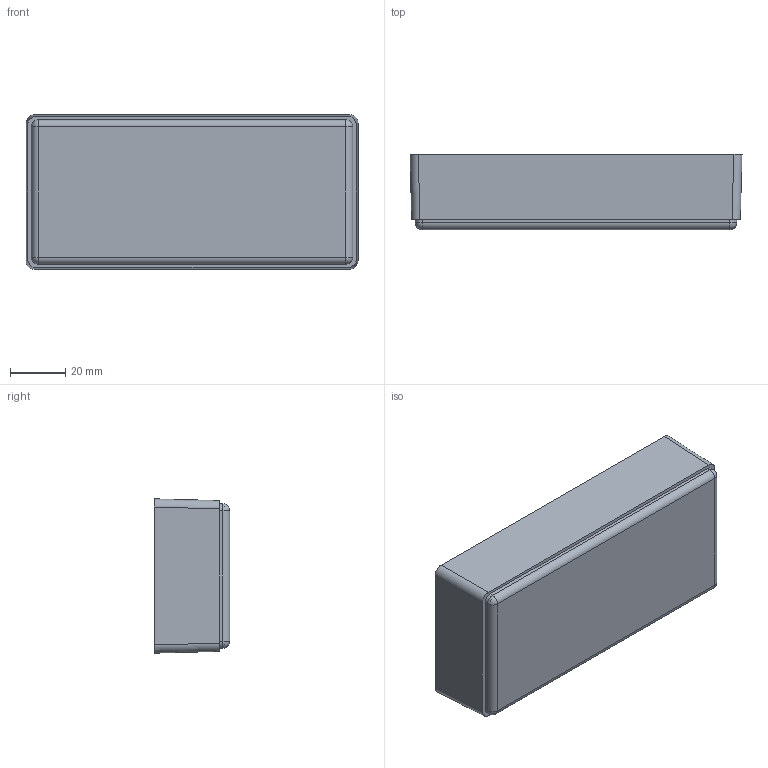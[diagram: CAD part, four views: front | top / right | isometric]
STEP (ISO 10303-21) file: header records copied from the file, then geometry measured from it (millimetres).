
FILE_DESCRIPTION (( 'STEP AP214' ), '1' );
FILE_NAME ('Cuerpo PP54.STEP', '2019-11-07T13:32:40', ( 'aaa' ), ( '' ), 'SwSTEP 2.0', 'SolidWorks 2014', '' );
FILE_SCHEMA (( 'AUTOMOTIVE_DESIGN' ));
Length unit declared in the file: millimetre
Products named in the file (1): Cuerpo PP54
Bounding box: 120.5 x 27.4 x 56 mm (x, y, z)
Volume: 30016.5 mm3; surface area: 32466.6 mm2
Topology: 1 solids, 1 shells, 89 faces, 208 edges, 132 vertices
Faces by surface type: cylinder 48, plane 37, sphere 4
Entity records: 2556 total; most frequent: CARTESIAN_POINT 498, DIRECTION 440, ORIENTED_EDGE 408, EDGE_CURVE 204, AXIS2_PLACEMENT_3D 170, VERTEX_POINT 132, EDGE_LOOP 104, LINE 100
